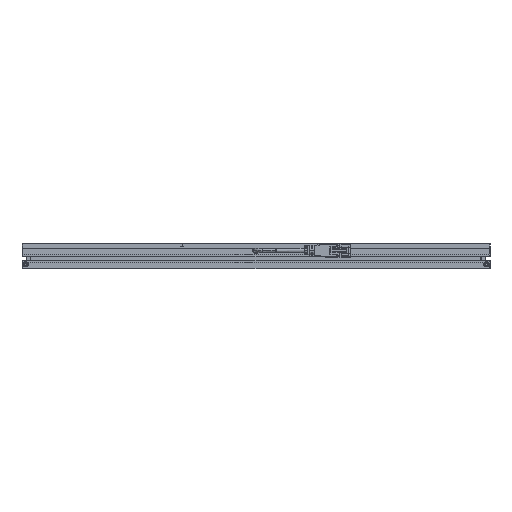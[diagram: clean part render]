
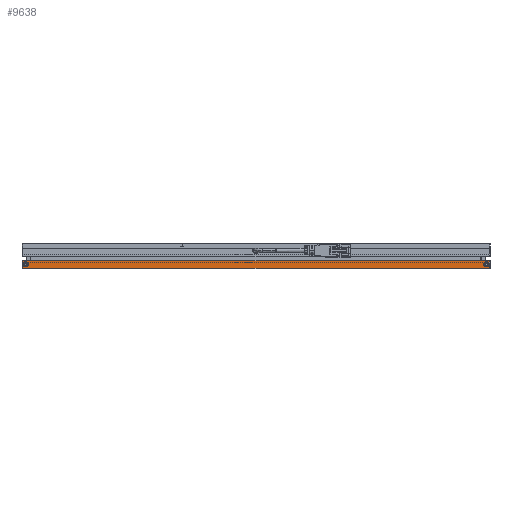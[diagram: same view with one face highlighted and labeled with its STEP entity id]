
A CAD part, left-side view. The second image highlights one B-rep face of the part: STEP entity #9638.
In plain terms, the highlighted planar face has unit normal (-1, 0, 0).
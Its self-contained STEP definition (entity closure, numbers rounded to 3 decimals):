
#16 = CARTESIAN_POINT ( 'NONE',  ( -182., 179., -12.5 ) ) ;
#40 = ORIENTED_EDGE ( 'NONE', *, *, #9852, .T. ) ;
#116 = DIRECTION ( 'NONE',  ( 0., 0., -1. ) ) ;
#251 = AXIS2_PLACEMENT_3D ( 'NONE', #8879, #3550, #3628 ) ;
#258 = DIRECTION ( 'NONE',  ( 0., 0., -1. ) ) ;
#283 = EDGE_LOOP ( 'NONE', ( #1192, #10538, #9019, #8706 ) ) ;
#747 = DIRECTION ( 'NONE',  ( 1., 0., 0. ) ) ;
#831 = CIRCLE ( 'NONE', #5854, 2. ) ;
#832 = VERTEX_POINT ( 'NONE', #5639 ) ;
#855 = LINE ( 'NONE', #9919, #7558 ) ;
#1006 = EDGE_CURVE ( 'NONE', #832, #4206, #4371, .T. ) ;
#1192 = ORIENTED_EDGE ( 'NONE', *, *, #7331, .F. ) ;
#1314 = AXIS2_PLACEMENT_3D ( 'NONE', #5230, #747, #8676 ) ;
#1356 = ORIENTED_EDGE ( 'NONE', *, *, #2921, .T. ) ;
#1742 = VERTEX_POINT ( 'NONE', #3273 ) ;
#1940 = VERTEX_POINT ( 'NONE', #6097 ) ;
#2131 = LINE ( 'NONE', #7332, #10864 ) ;
#2217 = FACE_BOUND ( 'NONE', #5269, .T. ) ;
#2316 = VERTEX_POINT ( 'NONE', #8788 ) ;
#2921 = EDGE_CURVE ( 'NONE', #4206, #832, #3786, .T. ) ;
#3064 = EDGE_CURVE ( 'NONE', #2316, #4360, #6281, .T. ) ;
#3195 = VECTOR ( 'NONE', #8679, 1000. ) ;
#3273 = CARTESIAN_POINT ( 'NONE',  ( -182., 181.5, -15.5 ) ) ;
#3412 = CARTESIAN_POINT ( 'NONE',  ( -182., 182., -15.5 ) ) ;
#3550 = DIRECTION ( 'NONE',  ( 1., 0., 0. ) ) ;
#3628 = DIRECTION ( 'NONE',  ( 0., 0., -1. ) ) ;
#3749 = CARTESIAN_POINT ( 'NONE',  ( -182., 179., -10.5 ) ) ;
#3786 = CIRCLE ( 'NONE', #7772, 2. ) ;
#3971 = DIRECTION ( 'NONE',  ( 0., 0., -1. ) ) ;
#4206 = VERTEX_POINT ( 'NONE', #3749 ) ;
#4360 = VERTEX_POINT ( 'NONE', #7644 ) ;
#4371 = CIRCLE ( 'NONE', #10436, 2. ) ;
#4403 = DIRECTION ( 'NONE',  ( 1., 0., 0. ) ) ;
#4870 = VECTOR ( 'NONE', #9230, 1000. ) ;
#5230 = CARTESIAN_POINT ( 'NONE',  ( -182., 182., -15.5 ) ) ;
#5269 = EDGE_LOOP ( 'NONE', ( #11201, #1356 ) ) ;
#5380 = ORIENTED_EDGE ( 'NONE', *, *, #3064, .T. ) ;
#5639 = CARTESIAN_POINT ( 'NONE',  ( -182., 179., -14.5 ) ) ;
#5854 = AXIS2_PLACEMENT_3D ( 'NONE', #6372, #10852, #6513 ) ;
#6097 = CARTESIAN_POINT ( 'NONE',  ( -182., -181.5, -9.85 ) ) ;
#6281 = CIRCLE ( 'NONE', #251, 2. ) ;
#6372 = CARTESIAN_POINT ( 'NONE',  ( -182., -179., -12.5 ) ) ;
#6495 = LINE ( 'NONE', #3412, #3195 ) ;
#6513 = DIRECTION ( 'NONE',  ( 0., 0., -1. ) ) ;
#6568 = DIRECTION ( 'NONE',  ( 0., 0., -1. ) ) ;
#6592 = EDGE_LOOP ( 'NONE', ( #40, #5380 ) ) ;
#6593 = CARTESIAN_POINT ( 'NONE',  ( -182., 181.5, -9.85 ) ) ;
#6703 = CARTESIAN_POINT ( 'NONE',  ( -182., 182., -9.85 ) ) ;
#6708 = EDGE_CURVE ( 'NONE', #1940, #11239, #2131, .T. ) ;
#7279 = FACE_BOUND ( 'NONE', #6592, .T. ) ;
#7331 = EDGE_CURVE ( 'NONE', #9978, #1940, #9782, .T. ) ;
#7332 = CARTESIAN_POINT ( 'NONE',  ( -182., -181.5, 0. ) ) ;
#7558 = VECTOR ( 'NONE', #3971, 1000. ) ;
#7644 = CARTESIAN_POINT ( 'NONE',  ( -182., -179., -14.5 ) ) ;
#7772 = AXIS2_PLACEMENT_3D ( 'NONE', #16, #8855, #6568 ) ;
#7955 = CARTESIAN_POINT ( 'NONE',  ( -182., 179., -12.5 ) ) ;
#7976 = EDGE_CURVE ( 'NONE', #1742, #11239, #6495, .T. ) ;
#8676 = DIRECTION ( 'NONE',  ( 0., 0., 1. ) ) ;
#8679 = DIRECTION ( 'NONE',  ( 0., -1., 0. ) ) ;
#8706 = ORIENTED_EDGE ( 'NONE', *, *, #6708, .F. ) ;
#8769 = PLANE ( 'NONE',  #1314 ) ;
#8788 = CARTESIAN_POINT ( 'NONE',  ( -182., -179., -10.5 ) ) ;
#8842 = EDGE_CURVE ( 'NONE', #9978, #1742, #855, .T. ) ;
#8855 = DIRECTION ( 'NONE',  ( 1., 0., 0. ) ) ;
#8879 = CARTESIAN_POINT ( 'NONE',  ( -182., -179., -12.5 ) ) ;
#8935 = FACE_OUTER_BOUND ( 'NONE', #283, .T. ) ;
#9019 = ORIENTED_EDGE ( 'NONE', *, *, #7976, .T. ) ;
#9230 = DIRECTION ( 'NONE',  ( 0., -1., 0. ) ) ;
#9638 = ADVANCED_FACE ( 'NONE', ( #2217, #7279, #8935 ), #8769, .F. ) ;
#9747 = CARTESIAN_POINT ( 'NONE',  ( -182., -181.5, -15.5 ) ) ;
#9782 = LINE ( 'NONE', #6703, #4870 ) ;
#9852 = EDGE_CURVE ( 'NONE', #4360, #2316, #831, .T. ) ;
#9919 = CARTESIAN_POINT ( 'NONE',  ( -182., 181.5, 0. ) ) ;
#9978 = VERTEX_POINT ( 'NONE', #6593 ) ;
#10436 = AXIS2_PLACEMENT_3D ( 'NONE', #7955, #4403, #116 ) ;
#10538 = ORIENTED_EDGE ( 'NONE', *, *, #8842, .T. ) ;
#10852 = DIRECTION ( 'NONE',  ( 1., 0., 0. ) ) ;
#10864 = VECTOR ( 'NONE', #258, 1000. ) ;
#11201 = ORIENTED_EDGE ( 'NONE', *, *, #1006, .T. ) ;
#11239 = VERTEX_POINT ( 'NONE', #9747 ) ;
